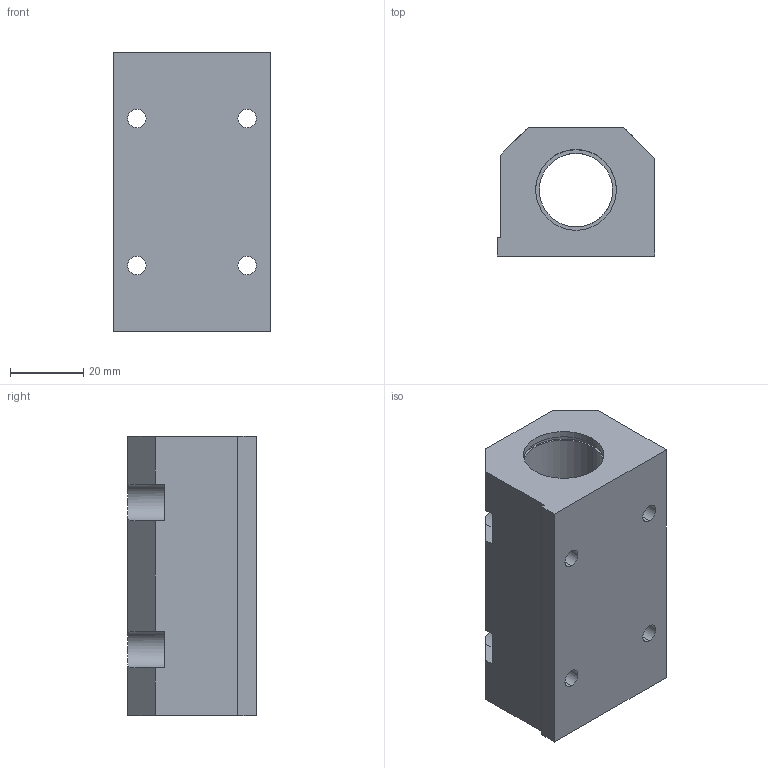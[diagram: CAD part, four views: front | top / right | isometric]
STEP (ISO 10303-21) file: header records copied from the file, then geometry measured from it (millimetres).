
FILE_DESCRIPTION (( 'STEP AP214' ), '1' );
FILE_NAME ('KTG85-I-12.step', '2020-03-04T13:29:43', ( '' ), ( '' ), 'SwSTEP 2.0', 'SolidWorks 2019', '' );
FILE_SCHEMA (( 'AUTOMOTIVE_DESIGN' ));
Length unit declared in the file: millimetre
Products named in the file (1): KTG85-I-12
Bounding box: 43 x 35 x 76 mm (x, y, z)
Volume: 73487.7 mm3; surface area: 21023.1 mm2
Topology: 1 solids, 1 shells, 65 faces, 167 edges, 110 vertices
Faces by surface type: plane 32, cylinder 30, cone 3
Entity records: 2208 total; most frequent: CARTESIAN_POINT 427, DIRECTION 346, ORIENTED_EDGE 334, EDGE_CURVE 167, AXIS2_PLACEMENT_3D 125, VERTEX_POINT 110, LINE 96, VECTOR 96
